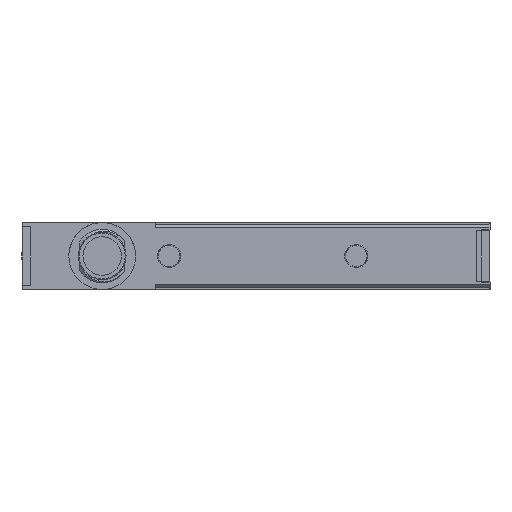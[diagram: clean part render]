
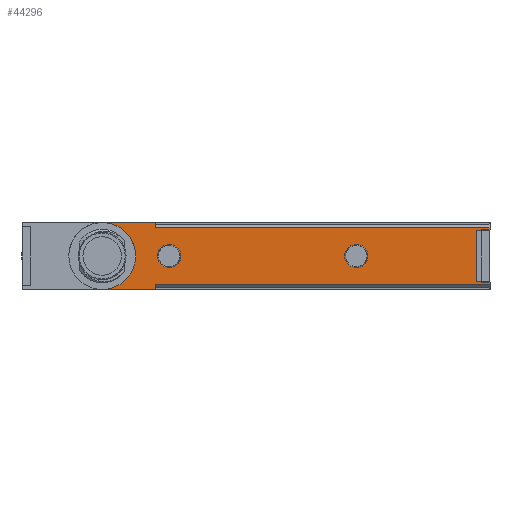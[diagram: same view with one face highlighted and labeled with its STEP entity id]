
A CAD part, front view. The second image highlights one B-rep face of the part: STEP entity #44296.
In plain terms, the highlighted planar face has unit normal (0, -1, 0).
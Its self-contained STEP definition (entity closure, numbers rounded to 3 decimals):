
#3582=CARTESIAN_POINT('',(33.0,-29.5,5.0));
#3583=VERTEX_POINT('',#3582);
#3591=CARTESIAN_POINT('',(28.0,-29.5,0.));
#3592=VERTEX_POINT('',#3591);
#3593=CARTESIAN_POINT('',(33.0,-29.5,0.0));
#3594=DIRECTION('',(0.0,1.0,0.0));
#3595=DIRECTION('',(1.0,0.0,0.0));
#3596=AXIS2_PLACEMENT_3D('',#3593,#3594,#3595);
#3597=CIRCLE('',#3596,5.0);
#3598=EDGE_CURVE('',#3592,#3583,#3597,.T.);
#3751=CARTESIAN_POINT('',(-3.25,-29.5,0.0));
#3752=VERTEX_POINT('',#3751);
#3768=CARTESIAN_POINT('',(-6.75,-29.5,0.));
#3769=VERTEX_POINT('',#3768);
#3776=CARTESIAN_POINT('',(-5.,-29.5,0.0));
#3777=DIRECTION('',(0.0,1.0,0.0));
#3778=DIRECTION('',(1.0,0.0,0.0));
#3779=AXIS2_PLACEMENT_3D('',#3776,#3777,#3778);
#3780=CIRCLE('',#3779,1.75);
#3781=EDGE_CURVE('',#3752,#3769,#3780,.T.);
#3973=CARTESIAN_POINT('',(24.75,-29.5,0.0));
#3974=VERTEX_POINT('',#3973);
#3990=CARTESIAN_POINT('',(21.25,-29.5,0.));
#3991=VERTEX_POINT('',#3990);
#3998=CARTESIAN_POINT('',(23.,-29.5,0.0));
#3999=DIRECTION('',(0.0,1.0,0.0));
#4000=DIRECTION('',(1.0,0.0,0.0));
#4001=AXIS2_PLACEMENT_3D('',#3998,#3999,#4000);
#4002=CIRCLE('',#4001,1.75);
#4003=EDGE_CURVE('',#3974,#3991,#4002,.T.);
#7346=CARTESIAN_POINT('',(25.,-29.5,-4.2));
#7347=VERTEX_POINT('',#7346);
#7354=CARTESIAN_POINT('',(-25.,-29.5,-4.2));
#7355=VERTEX_POINT('',#7354);
#7356=CARTESIAN_POINT('',(-25.,-29.5,-4.2));
#7357=DIRECTION('',(1.0,0.0,0.0));
#7358=VECTOR('',#7357,50.0);
#7359=LINE('',#7356,#7358);
#7360=EDGE_CURVE('',#7355,#7347,#7359,.T.);
#7442=CARTESIAN_POINT('',(-25.,-29.5,3.9));
#7443=VERTEX_POINT('',#7442);
#7450=CARTESIAN_POINT('',(-25.,-29.5,4.2));
#7451=VERTEX_POINT('',#7450);
#7452=CARTESIAN_POINT('',(-25.,-29.5,3.9));
#7453=DIRECTION('',(0.0,0.0,1.0));
#7454=VECTOR('',#7453,0.3);
#7455=LINE('',#7452,#7454);
#7456=EDGE_CURVE('',#7443,#7451,#7455,.T.);
#7528=CARTESIAN_POINT('',(25.,-29.5,-5.0));
#7529=VERTEX_POINT('',#7528);
#7538=CARTESIAN_POINT('',(25.,-29.5,-4.2));
#7539=DIRECTION('',(0.0,0.0,-1.0));
#7540=VECTOR('',#7539,0.8);
#7541=LINE('',#7538,#7540);
#7542=EDGE_CURVE('',#7347,#7529,#7541,.T.);
#7564=CARTESIAN_POINT('',(-25.,-29.5,-3.9));
#7565=VERTEX_POINT('',#7564);
#7566=CARTESIAN_POINT('',(-25.,-29.5,-4.2));
#7567=DIRECTION('',(0.0,0.0,1.0));
#7568=VECTOR('',#7567,0.3);
#7569=LINE('',#7566,#7568);
#7570=EDGE_CURVE('',#7355,#7565,#7569,.T.);
#7614=CARTESIAN_POINT('',(25.,-29.5,4.2));
#7615=VERTEX_POINT('',#7614);
#7616=CARTESIAN_POINT('',(25.,-29.5,4.2));
#7617=DIRECTION('',(-1.0,0.0,0.0));
#7618=VECTOR('',#7617,50.0);
#7619=LINE('',#7616,#7618);
#7620=EDGE_CURVE('',#7615,#7451,#7619,.T.);
#7638=CARTESIAN_POINT('',(25.,-29.5,5.0));
#7639=VERTEX_POINT('',#7638);
#7646=CARTESIAN_POINT('',(33.0,-29.5,5.0));
#7647=DIRECTION('',(-1.0,0.0,0.0));
#7648=VECTOR('',#7647,8.);
#7649=LINE('',#7646,#7648);
#7650=EDGE_CURVE('',#3583,#7639,#7649,.T.);
#37310=CARTESIAN_POINT('',(-23.8,-29.5,-3.9));
#37311=VERTEX_POINT('',#37310);
#37312=CARTESIAN_POINT('',(-23.8,-29.5,-3.9));
#37313=DIRECTION('',(-1.0,0.0,0.0));
#37314=VECTOR('',#37313,1.2);
#37315=LINE('',#37312,#37314);
#37316=EDGE_CURVE('',#37311,#7565,#37315,.T.);
#37415=CARTESIAN_POINT('',(33.0,-29.5,-5.0));
#37416=VERTEX_POINT('',#37415);
#37423=CARTESIAN_POINT('',(33.0,-29.5,-5.0));
#37424=DIRECTION('',(-1.0,0.0,0.0));
#37425=VECTOR('',#37424,8.);
#37426=LINE('',#37423,#37425);
#37427=EDGE_CURVE('',#37416,#7529,#37426,.T.);
#43812=CARTESIAN_POINT('',(23.,-29.5,0.0));
#43813=DIRECTION('',(0.0,1.0,0.0));
#43814=DIRECTION('',(1.0,0.0,0.0));
#43815=AXIS2_PLACEMENT_3D('',#43812,#43813,#43814);
#43816=CIRCLE('',#43815,1.75);
#43817=EDGE_CURVE('',#3991,#3974,#43816,.T.);
#43846=CARTESIAN_POINT('',(-23.8,-29.5,3.9));
#43847=VERTEX_POINT('',#43846);
#43854=CARTESIAN_POINT('',(-25.,-29.5,3.9));
#43855=DIRECTION('',(1.0,0.0,0.0));
#43856=VECTOR('',#43855,1.2);
#43857=LINE('',#43854,#43856);
#43858=EDGE_CURVE('',#7443,#43847,#43857,.T.);
#43871=CARTESIAN_POINT('',(-23.8,-29.5,3.9));
#43872=DIRECTION('',(0.0,0.0,-1.0));
#43873=VECTOR('',#43872,7.8);
#43874=LINE('',#43871,#43873);
#43875=EDGE_CURVE('',#43847,#37311,#43874,.T.);
#44006=CARTESIAN_POINT('',(25.,-29.5,5.0));
#44007=DIRECTION('',(0.0,0.0,-1.0));
#44008=VECTOR('',#44007,0.8);
#44009=LINE('',#44006,#44008);
#44010=EDGE_CURVE('',#7639,#7615,#44009,.T.);
#44167=CARTESIAN_POINT('',(-5.,-29.5,0.0));
#44168=DIRECTION('',(0.0,1.0,0.0));
#44169=DIRECTION('',(1.0,0.0,0.0));
#44170=AXIS2_PLACEMENT_3D('',#44167,#44168,#44169);
#44171=CIRCLE('',#44170,1.75);
#44172=EDGE_CURVE('',#3769,#3752,#44171,.T.);
#44257=CARTESIAN_POINT('',(33.0,-29.5,0.0));
#44258=DIRECTION('',(0.0,1.0,0.0));
#44259=DIRECTION('',(1.0,0.0,0.0));
#44260=AXIS2_PLACEMENT_3D('',#44257,#44258,#44259);
#44261=CIRCLE('',#44260,5.0);
#44262=EDGE_CURVE('',#37416,#3592,#44261,.T.);
#44268=CARTESIAN_POINT('',(-27.9,-29.5,5.5));
#44269=DIRECTION('',(0.0,-1.0,0.0));
#44270=DIRECTION('',(0.0,0.0,-1.0));
#44271=AXIS2_PLACEMENT_3D('',#44268,#44269,#44270);
#44272=PLANE('',#44271);
#44273=ORIENTED_EDGE('',*,*,#7542,.T.);
#44274=ORIENTED_EDGE('',*,*,#37427,.F.);
#44275=ORIENTED_EDGE('',*,*,#44262,.T.);
#44276=ORIENTED_EDGE('',*,*,#3598,.T.);
#44277=ORIENTED_EDGE('',*,*,#7650,.T.);
#44278=ORIENTED_EDGE('',*,*,#44010,.T.);
#44279=ORIENTED_EDGE('',*,*,#7620,.T.);
#44280=ORIENTED_EDGE('',*,*,#7456,.F.);
#44281=ORIENTED_EDGE('',*,*,#43858,.T.);
#44282=ORIENTED_EDGE('',*,*,#43875,.T.);
#44283=ORIENTED_EDGE('',*,*,#37316,.T.);
#44284=ORIENTED_EDGE('',*,*,#7570,.F.);
#44285=ORIENTED_EDGE('',*,*,#7360,.T.);
#44286=EDGE_LOOP('',(#44273,#44274,#44275,#44276,#44277,#44278,#44279,#44280,#44281,#44282,#44283,#44284,#44285));
#44287=FACE_OUTER_BOUND('',#44286,.T.);
#44288=ORIENTED_EDGE('',*,*,#4003,.T.);
#44289=ORIENTED_EDGE('',*,*,#43817,.T.);
#44290=EDGE_LOOP('',(#44288,#44289));
#44291=FACE_BOUND('',#44290,.T.);
#44292=ORIENTED_EDGE('',*,*,#3781,.T.);
#44293=ORIENTED_EDGE('',*,*,#44172,.T.);
#44294=EDGE_LOOP('',(#44292,#44293));
#44295=FACE_BOUND('',#44294,.T.);
#44296=ADVANCED_FACE('',(#44287,#44291,#44295),#44272,.T.);
